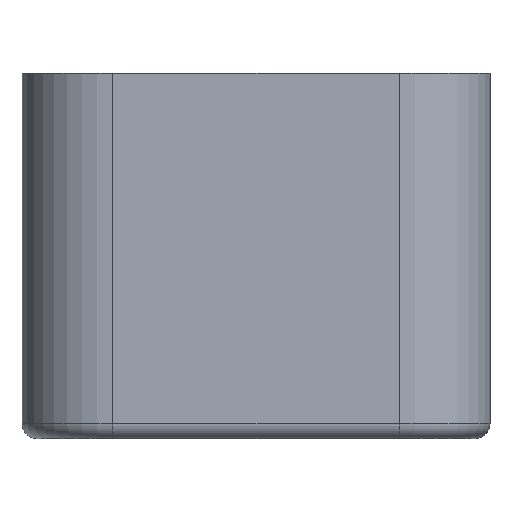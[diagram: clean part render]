
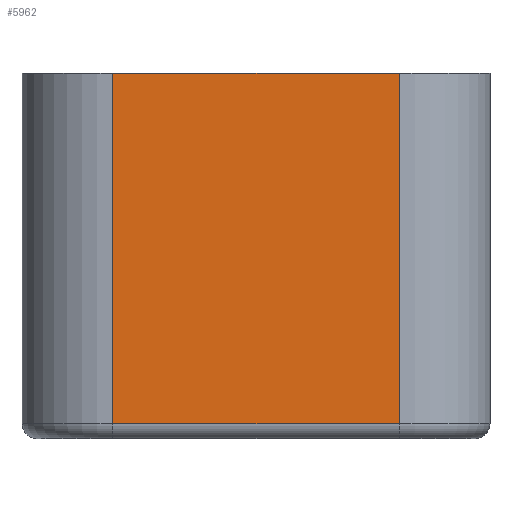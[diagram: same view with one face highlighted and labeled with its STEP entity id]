
A CAD part, left-side view. The second image highlights one B-rep face of the part: STEP entity #5962.
In plain terms, the highlighted planar face has unit normal (-1, 0, 0).
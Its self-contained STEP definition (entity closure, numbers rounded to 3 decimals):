
#123=PLANE('',#6378);
#357=FACE_OUTER_BOUND('',#667,.T.);
#667=EDGE_LOOP('',(#4366,#4367,#4368,#4369));
#1252=LINE('',#8642,#1823);
#1270=LINE('',#8701,#1841);
#1349=LINE('',#9014,#1920);
#1400=LINE('',#9174,#1971);
#1823=VECTOR('',#6862,10.);
#1841=VECTOR('',#6924,10.);
#1920=VECTOR('',#7159,10.);
#1971=VECTOR('',#7332,10.);
#2407=VERTEX_POINT('',#8635);
#2409=VERTEX_POINT('',#8640);
#2428=VERTEX_POINT('',#8700);
#2512=VERTEX_POINT('',#9013);
#2984=EDGE_CURVE('',#2409,#2407,#1252,.T.);
#3014=EDGE_CURVE('',#2407,#2428,#1270,.T.);
#3145=EDGE_CURVE('',#2512,#2428,#1349,.T.);
#3225=EDGE_CURVE('',#2512,#2409,#1400,.T.);
#4366=ORIENTED_EDGE('',*,*,#2984,.F.);
#4367=ORIENTED_EDGE('',*,*,#3225,.F.);
#4368=ORIENTED_EDGE('',*,*,#3145,.T.);
#4369=ORIENTED_EDGE('',*,*,#3014,.F.);
#5962=ADVANCED_FACE('',(#357),#123,.T.);
#6378=AXIS2_PLACEMENT_3D('',#9173,#7330,#7331);
#6862=DIRECTION('',(0.,1.,0.));
#6924=DIRECTION('',(0.,0.,1.));
#7159=DIRECTION('',(0.,1.,0.));
#7330=DIRECTION('center_axis',(-1.,0.,0.));
#7331=DIRECTION('ref_axis',(0.,0.,
1.));
#7332=DIRECTION('',(0.,0.,-1.));
#8635=CARTESIAN_POINT('',(7.149,-25.468,-31.276));
#8640=CARTESIAN_POINT('',(7.149,-44.468,-31.276));
#8642=CARTESIAN_POINT('',(7.149,-50.468,-31.276));
#8700=CARTESIAN_POINT('',(7.149,-25.468,-8.076));
#8701=CARTESIAN_POINT('',(7.149,-25.468,-26.226));
#9013=CARTESIAN_POINT('',(7.149,-44.468,-8.076));
#9014=CARTESIAN_POINT('',(7.149,-50.468,-8.076));
#9173=CARTESIAN_POINT('Origin',(7.149,-50.468,-32.276));
#9174=CARTESIAN_POINT('',(7.149,-44.468,-26.226));
